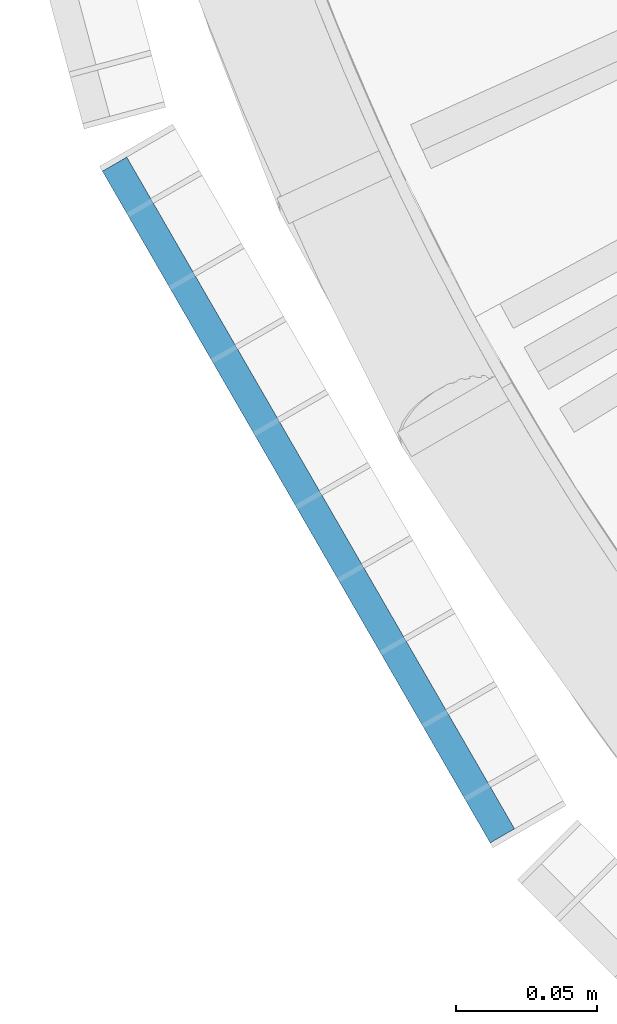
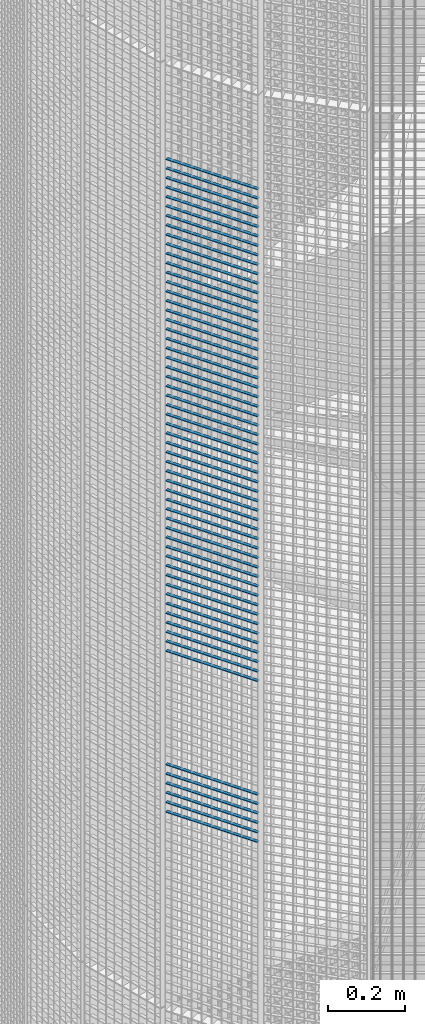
# One storey, part 116 of 1183: 59 beams, 1 element without a shape of its own.
"""IFC2X3 building model written with IfcOpenShell, lengths in millimetres."""

from ifc_helpers import new_model, si_unit, frame, origin_with_axes, origin_2d_with_axis, place, context, subcontext, project, spatial, rectangle, extrude, material, type_object, element, aggregate, save


model = new_model("IFC2X3")

# Units and contexts
model_context = context("Model", 3, precision=1e-05, world=origin_with_axes())
body_context = subcontext(model_context, "Body", "Model", "MODEL_VIEW")
ifc_project = project(units=[si_unit("LENGTHUNIT", "METRE", prefix="MILLI"), si_unit("AREAUNIT", "SQUARE_METRE"), si_unit("VOLUMEUNIT", "CUBIC_METRE"), si_unit("MASSUNIT", "GRAM", prefix="KILO"), si_unit("TIMEUNIT", "SECOND"), si_unit("PLANEANGLEUNIT", "RADIAN"), si_unit("SOLIDANGLEUNIT", "STERADIAN"), si_unit("THERMODYNAMICTEMPERATUREUNIT", "DEGREE_CELSIUS"), si_unit("LUMINOUSINTENSITYUNIT", "LUMEN")], contexts=[model_context])

# Site, building, storey
site_placement = place(None, origin_with_axes())
site = spatial("IfcSite", under=ifc_project, at=site_placement, Name="Undefined", CompositionType="ELEMENT")
building_placement = place(site_placement, origin_with_axes())
building = spatial("IfcBuilding", under=site, at=building_placement, Name="Undefined", CompositionType="ELEMENT")
storey_placement = place(building_placement, origin_with_axes())
storey = spatial("IfcBuildingStorey", under=building, at=storey_placement, Name="Undefined", CompositionType="ELEMENT", Elevation=0.0)

# Assembly, beams
assembly_placement = place(storey_placement, origin_with_axes())
assembly = element("IfcElementAssembly", 1, at=assembly_placement, inside=storey, Name="BORDURE", AssemblyPlace="NOTDEFINED", PredefinedType="NOTDEFINED")
ifc_material = material(Name="STEEL/S235JR")
beam_type = type_object("IfcBeamType", Name="PL2*10", PredefinedType="NOTDEFINED")
beam_1_placement = place(assembly_placement, frame((-1033.29996828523, -437.231955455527, 11700.0), z_axis=(-0.866025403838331, -0.499999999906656, 0.0), x_axis=(0.499999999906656, -0.866025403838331, 0.0)))
beam_1 = element("IfcBeam", 2, at=beam_1_placement, type_object=beam_type, material=ifc_material, Name="ENTRETOISE", context=body_context, shape_type="SweptSolid", body=[
    extrude(rectangle(XDim=2.0, YDim=10.0, at=origin_2d_with_axis()), frame((275.999999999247, 9.09494701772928e-13, 1.53210777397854e-14), z_axis=(-1.0, 0.0, 0.0), x_axis=(0.0, -1.0, 0.0)), (0.0, 0.0, 1.0), 276.0),
])
beam_2_placement = place(assembly_placement, frame((-1033.29996828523, -437.231955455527, 11670.0), z_axis=(-0.866025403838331, -0.499999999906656, 0.0), x_axis=(0.499999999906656, -0.866025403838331, 0.0)))
beam_2 = element("IfcBeam", 3, at=beam_2_placement, type_object=beam_type, material=ifc_material, Name="ENTRETOISE", context=body_context, shape_type="SweptSolid", body=[
    extrude(rectangle(XDim=2.0, YDim=10.0, at=origin_2d_with_axis()), frame((275.999999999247, 9.09494701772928e-13, 1.53210777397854e-14), z_axis=(-1.0, 0.0, 0.0), x_axis=(0.0, -1.0, 0.0)), (0.0, 0.0, 1.0), 276.0),
])
beam_3_placement = place(assembly_placement, frame((-1033.29996828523, -437.231955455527, 11640.0), z_axis=(-0.866025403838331, -0.499999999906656, 0.0), x_axis=(0.499999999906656, -0.866025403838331, 0.0)))
beam_3 = element("IfcBeam", 4, at=beam_3_placement, type_object=beam_type, material=ifc_material, Name="ENTRETOISE", context=body_context, shape_type="SweptSolid", body=[
    extrude(rectangle(XDim=2.0, YDim=10.0, at=origin_2d_with_axis()), frame((275.999999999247, 9.09494701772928e-13, 1.53210777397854e-14), z_axis=(-1.0, 0.0, 0.0), x_axis=(0.0, -1.0, 0.0)), (0.0, 0.0, 1.0), 276.0),
])
beam_4_placement = place(assembly_placement, frame((-1033.29996828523, -437.231955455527, 11610.0), z_axis=(-0.866025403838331, -0.499999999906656, 0.0), x_axis=(0.499999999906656, -0.866025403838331, 0.0)))
beam_4 = element("IfcBeam", 5, at=beam_4_placement, type_object=beam_type, material=ifc_material, Name="ENTRETOISE", context=body_context, shape_type="SweptSolid", body=[
    extrude(rectangle(XDim=2.0, YDim=10.0, at=origin_2d_with_axis()), frame((275.999999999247, 9.09494701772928e-13, 1.53210777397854e-14), z_axis=(-1.0, 0.0, 0.0), x_axis=(0.0, -1.0, 0.0)), (0.0, 0.0, 1.0), 276.0),
])
beam_5_placement = place(assembly_placement, frame((-1033.29996828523, -437.231955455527, 11580.0), z_axis=(-0.866025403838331, -0.499999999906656, 0.0), x_axis=(0.499999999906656, -0.866025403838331, 0.0)))
beam_5 = element("IfcBeam", 6, at=beam_5_placement, type_object=beam_type, material=ifc_material, Name="ENTRETOISE", context=body_context, shape_type="SweptSolid", body=[
    extrude(rectangle(XDim=2.0, YDim=10.0, at=origin_2d_with_axis()), frame((275.999999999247, 9.09494701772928e-13, 1.53210777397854e-14), z_axis=(-1.0, 0.0, 0.0), x_axis=(0.0, -1.0, 0.0)), (0.0, 0.0, 1.0), 276.0),
])
beam_6_placement = place(assembly_placement, frame((-1033.29996828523, -437.231955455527, 11550.0), z_axis=(-0.866025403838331, -0.499999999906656, 0.0), x_axis=(0.499999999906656, -0.866025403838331, 0.0)))
beam_6 = element("IfcBeam", 7, at=beam_6_placement, type_object=beam_type, material=ifc_material, Name="ENTRETOISE", context=body_context, shape_type="SweptSolid", body=[
    extrude(rectangle(XDim=2.0, YDim=10.0, at=origin_2d_with_axis()), frame((275.999999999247, 9.09494701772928e-13, 1.53210777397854e-14), z_axis=(-1.0, 0.0, 0.0), x_axis=(0.0, -1.0, 0.0)), (0.0, 0.0, 1.0), 276.0),
])
beam_7_placement = place(assembly_placement, frame((-1033.29996828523, -437.231955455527, 11520.0), z_axis=(-0.866025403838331, -0.499999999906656, 0.0), x_axis=(0.499999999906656, -0.866025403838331, 0.0)))
beam_7 = element("IfcBeam", 8, at=beam_7_placement, type_object=beam_type, material=ifc_material, Name="ENTRETOISE", context=body_context, shape_type="SweptSolid", body=[
    extrude(rectangle(XDim=2.0, YDim=10.0, at=origin_2d_with_axis()), frame((275.999999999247, 9.09494701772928e-13, 1.53210777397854e-14), z_axis=(-1.0, 0.0, 0.0), x_axis=(0.0, -1.0, 0.0)), (0.0, 0.0, 1.0), 276.0),
])
beam_8_placement = place(assembly_placement, frame((-1033.29996828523, -437.231955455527, 11490.0), z_axis=(-0.866025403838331, -0.499999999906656, 0.0), x_axis=(0.499999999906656, -0.866025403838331, 0.0)))
beam_8 = element("IfcBeam", 9, at=beam_8_placement, type_object=beam_type, material=ifc_material, Name="ENTRETOISE", context=body_context, shape_type="SweptSolid", body=[
    extrude(rectangle(XDim=2.0, YDim=10.0, at=origin_2d_with_axis()), frame((275.999999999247, 9.09494701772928e-13, 1.53210777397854e-14), z_axis=(-1.0, 0.0, 0.0), x_axis=(0.0, -1.0, 0.0)), (0.0, 0.0, 1.0), 276.0),
])
beam_9_placement = place(assembly_placement, frame((-1033.29996828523, -437.231955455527, 11460.0), z_axis=(-0.866025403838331, -0.499999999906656, 0.0), x_axis=(0.499999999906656, -0.866025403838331, 0.0)))
beam_9 = element("IfcBeam", 10, at=beam_9_placement, type_object=beam_type, material=ifc_material, Name="ENTRETOISE", context=body_context, shape_type="SweptSolid", body=[
    extrude(rectangle(XDim=2.0, YDim=10.0, at=origin_2d_with_axis()), frame((275.999999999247, 9.09494701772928e-13, 1.53210777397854e-14), z_axis=(-1.0, 0.0, 0.0), x_axis=(0.0, -1.0, 0.0)), (0.0, 0.0, 1.0), 276.0),
])
beam_10_placement = place(assembly_placement, frame((-1033.29996828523, -437.231955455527, 11430.0), z_axis=(-0.866025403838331, -0.499999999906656, 0.0), x_axis=(0.499999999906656, -0.866025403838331, 0.0)))
beam_10 = element("IfcBeam", 11, at=beam_10_placement, type_object=beam_type, material=ifc_material, Name="ENTRETOISE", context=body_context, shape_type="SweptSolid", body=[
    extrude(rectangle(XDim=2.0, YDim=10.0, at=origin_2d_with_axis()), frame((275.999999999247, 9.09494701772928e-13, 1.53210777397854e-14), z_axis=(-1.0, 0.0, 0.0), x_axis=(0.0, -1.0, 0.0)), (0.0, 0.0, 1.0), 276.0),
])
beam_11_placement = place(assembly_placement, frame((-1033.29996828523, -437.231955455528, 11400.0), z_axis=(-0.866025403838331, -0.499999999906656, 0.0), x_axis=(0.499999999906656, -0.866025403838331, 0.0)))
beam_11 = element("IfcBeam", 12, at=beam_11_placement, type_object=beam_type, material=ifc_material, Name="ENTRETOISE", context=body_context, shape_type="SweptSolid", body=[
    extrude(rectangle(XDim=2.0, YDim=10.0, at=origin_2d_with_axis()), frame((275.999999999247, 9.09494701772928e-13, 1.53210777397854e-14), z_axis=(-1.0, 0.0, 0.0), x_axis=(0.0, -1.0, 0.0)), (0.0, 0.0, 1.0), 276.0),
])
beam_12_placement = place(assembly_placement, frame((-1033.29996828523, -437.231955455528, 11370.0), z_axis=(-0.866025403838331, -0.499999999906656, 0.0), x_axis=(0.499999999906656, -0.866025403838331, 0.0)))
beam_12 = element("IfcBeam", 13, at=beam_12_placement, type_object=beam_type, material=ifc_material, Name="ENTRETOISE", context=body_context, shape_type="SweptSolid", body=[
    extrude(rectangle(XDim=2.0, YDim=10.0, at=origin_2d_with_axis()), frame((275.999999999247, 9.09494701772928e-13, 1.53210777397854e-14), z_axis=(-1.0, 0.0, 0.0), x_axis=(0.0, -1.0, 0.0)), (0.0, 0.0, 1.0), 276.0),
])
beam_13_placement = place(assembly_placement, frame((-1033.29996828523, -437.231955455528, 11340.0), z_axis=(-0.866025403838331, -0.499999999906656, 0.0), x_axis=(0.499999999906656, -0.866025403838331, 0.0)))
beam_13 = element("IfcBeam", 14, at=beam_13_placement, type_object=beam_type, material=ifc_material, Name="ENTRETOISE", context=body_context, shape_type="SweptSolid", body=[
    extrude(rectangle(XDim=2.0, YDim=10.0, at=origin_2d_with_axis()), frame((275.999999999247, 9.09494701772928e-13, 1.53210777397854e-14), z_axis=(-1.0, 0.0, 0.0), x_axis=(0.0, -1.0, 0.0)), (0.0, 0.0, 1.0), 276.0),
])
beam_14_placement = place(assembly_placement, frame((-1033.29996828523, -437.231955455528, 11310.0), z_axis=(-0.866025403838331, -0.499999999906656, 0.0), x_axis=(0.499999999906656, -0.866025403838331, 0.0)))
beam_14 = element("IfcBeam", 15, at=beam_14_placement, type_object=beam_type, material=ifc_material, Name="ENTRETOISE", context=body_context, shape_type="SweptSolid", body=[
    extrude(rectangle(XDim=2.0, YDim=10.0, at=origin_2d_with_axis()), frame((275.999999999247, 9.09494701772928e-13, 1.53210777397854e-14), z_axis=(-1.0, 0.0, 0.0), x_axis=(0.0, -1.0, 0.0)), (0.0, 0.0, 1.0), 276.0),
])
beam_15_placement = place(assembly_placement, frame((-1033.29996828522, -437.231955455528, 11280.0), z_axis=(-0.866025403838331, -0.499999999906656, 0.0), x_axis=(0.499999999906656, -0.866025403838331, 0.0)))
beam_15 = element("IfcBeam", 16, at=beam_15_placement, type_object=beam_type, material=ifc_material, Name="ENTRETOISE", context=body_context, shape_type="SweptSolid", body=[
    extrude(rectangle(XDim=2.0, YDim=10.0, at=origin_2d_with_axis()), frame((275.999999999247, 9.09494701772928e-13, 1.53210777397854e-14), z_axis=(-1.0, 0.0, 0.0), x_axis=(0.0, -1.0, 0.0)), (0.0, 0.0, 1.0), 276.0),
])
beam_16_placement = place(assembly_placement, frame((-1033.29996828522, -437.231955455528, 11250.0), z_axis=(-0.866025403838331, -0.499999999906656, 0.0), x_axis=(0.499999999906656, -0.866025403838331, 0.0)))
beam_16 = element("IfcBeam", 17, at=beam_16_placement, type_object=beam_type, material=ifc_material, Name="ENTRETOISE", context=body_context, shape_type="SweptSolid", body=[
    extrude(rectangle(XDim=2.0, YDim=10.0, at=origin_2d_with_axis()), frame((275.999999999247, 9.09494701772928e-13, 1.53210777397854e-14), z_axis=(-1.0, 0.0, 0.0), x_axis=(0.0, -1.0, 0.0)), (0.0, 0.0, 1.0), 276.0),
])
beam_17_placement = place(assembly_placement, frame((-1033.29996828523, -437.231955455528, 11220.0), z_axis=(-0.866025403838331, -0.499999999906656, 0.0), x_axis=(0.499999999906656, -0.866025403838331, 0.0)))
beam_17 = element("IfcBeam", 18, at=beam_17_placement, type_object=beam_type, material=ifc_material, Name="ENTRETOISE", context=body_context, shape_type="SweptSolid", body=[
    extrude(rectangle(XDim=2.0, YDim=10.0, at=origin_2d_with_axis()), frame((275.999999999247, 9.09494701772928e-13, 1.53210777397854e-14), z_axis=(-1.0, 0.0, 0.0), x_axis=(0.0, -1.0, 0.0)), (0.0, 0.0, 1.0), 276.0),
])
beam_18_placement = place(assembly_placement, frame((-1033.29996828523, -437.231955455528, 11190.0), z_axis=(-0.866025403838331, -0.499999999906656, 0.0), x_axis=(0.499999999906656, -0.866025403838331, 0.0)))
beam_18 = element("IfcBeam", 19, at=beam_18_placement, type_object=beam_type, material=ifc_material, Name="ENTRETOISE", context=body_context, shape_type="SweptSolid", body=[
    extrude(rectangle(XDim=2.0, YDim=10.0, at=origin_2d_with_axis()), frame((275.999999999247, 9.09494701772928e-13, 1.53210777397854e-14), z_axis=(-1.0, 0.0, 0.0), x_axis=(0.0, -1.0, 0.0)), (0.0, 0.0, 1.0), 276.0),
])
beam_19_placement = place(assembly_placement, frame((-1033.29996828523, -437.231955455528, 11160.0), z_axis=(-0.866025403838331, -0.499999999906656, 0.0), x_axis=(0.499999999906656, -0.866025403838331, 0.0)))
beam_19 = element("IfcBeam", 20, at=beam_19_placement, type_object=beam_type, material=ifc_material, Name="ENTRETOISE", context=body_context, shape_type="SweptSolid", body=[
    extrude(rectangle(XDim=2.0, YDim=10.0, at=origin_2d_with_axis()), frame((275.999999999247, 9.09494701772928e-13, 1.53210777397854e-14), z_axis=(-1.0, 0.0, 0.0), x_axis=(0.0, -1.0, 0.0)), (0.0, 0.0, 1.0), 276.0),
])
beam_20_placement = place(assembly_placement, frame((-1033.29996828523, -437.231955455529, 11130.0), z_axis=(-0.866025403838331, -0.499999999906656, 0.0), x_axis=(0.499999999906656, -0.866025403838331, 0.0)))
beam_20 = element("IfcBeam", 21, at=beam_20_placement, type_object=beam_type, material=ifc_material, Name="ENTRETOISE", context=body_context, shape_type="SweptSolid", body=[
    extrude(rectangle(XDim=2.0, YDim=10.0, at=origin_2d_with_axis()), frame((275.999999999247, 9.09494701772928e-13, 1.53210777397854e-14), z_axis=(-1.0, 0.0, 0.0), x_axis=(0.0, -1.0, 0.0)), (0.0, 0.0, 1.0), 276.0),
])
beam_21_placement = place(assembly_placement, frame((-1033.29996828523, -437.231955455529, 11100.0), z_axis=(-0.866025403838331, -0.499999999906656, 0.0), x_axis=(0.499999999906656, -0.866025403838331, 0.0)))
beam_21 = element("IfcBeam", 22, at=beam_21_placement, type_object=beam_type, material=ifc_material, Name="ENTRETOISE", context=body_context, shape_type="SweptSolid", body=[
    extrude(rectangle(XDim=2.0, YDim=10.0, at=origin_2d_with_axis()), frame((275.999999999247, 9.09494701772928e-13, 1.53210777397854e-14), z_axis=(-1.0, 0.0, 0.0), x_axis=(0.0, -1.0, 0.0)), (0.0, 0.0, 1.0), 276.0),
])
beam_22_placement = place(assembly_placement, frame((-1033.29996828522, -437.231955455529, 11070.0), z_axis=(-0.866025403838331, -0.499999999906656, 0.0), x_axis=(0.499999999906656, -0.866025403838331, 0.0)))
beam_22 = element("IfcBeam", 23, at=beam_22_placement, type_object=beam_type, material=ifc_material, Name="ENTRETOISE", context=body_context, shape_type="SweptSolid", body=[
    extrude(rectangle(XDim=2.0, YDim=10.0, at=origin_2d_with_axis()), frame((275.999999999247, 9.09494701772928e-13, 1.53210777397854e-14), z_axis=(-1.0, 0.0, 0.0), x_axis=(0.0, -1.0, 0.0)), (0.0, 0.0, 1.0), 276.0),
])
beam_23_placement = place(assembly_placement, frame((-1033.29996828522, -437.231955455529, 11040.0), z_axis=(-0.866025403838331, -0.499999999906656, 0.0), x_axis=(0.499999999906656, -0.866025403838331, 0.0)))
beam_23 = element("IfcBeam", 24, at=beam_23_placement, type_object=beam_type, material=ifc_material, Name="ENTRETOISE", context=body_context, shape_type="SweptSolid", body=[
    extrude(rectangle(XDim=2.0, YDim=10.0, at=origin_2d_with_axis()), frame((275.999999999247, 9.09494701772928e-13, 1.53210777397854e-14), z_axis=(-1.0, 0.0, 0.0), x_axis=(0.0, -1.0, 0.0)), (0.0, 0.0, 1.0), 276.0),
])
beam_24_placement = place(assembly_placement, frame((-1033.29996828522, -437.231955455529, 11010.0), z_axis=(-0.866025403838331, -0.499999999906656, 0.0), x_axis=(0.499999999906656, -0.866025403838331, 0.0)))
beam_24 = element("IfcBeam", 25, at=beam_24_placement, type_object=beam_type, material=ifc_material, Name="ENTRETOISE", context=body_context, shape_type="SweptSolid", body=[
    extrude(rectangle(XDim=2.0, YDim=10.0, at=origin_2d_with_axis()), frame((275.999999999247, 9.09494701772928e-13, 1.53210777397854e-14), z_axis=(-1.0, 0.0, 0.0), x_axis=(0.0, -1.0, 0.0)), (0.0, 0.0, 1.0), 276.0),
])
beam_25_placement = place(assembly_placement, frame((-1033.29996828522, -437.231955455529, 10980.0), z_axis=(-0.866025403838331, -0.499999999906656, 0.0), x_axis=(0.499999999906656, -0.866025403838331, 0.0)))
beam_25 = element("IfcBeam", 26, at=beam_25_placement, type_object=beam_type, material=ifc_material, Name="ENTRETOISE", context=body_context, shape_type="SweptSolid", body=[
    extrude(rectangle(XDim=2.0, YDim=10.0, at=origin_2d_with_axis()), frame((275.999999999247, 9.09494701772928e-13, 1.53210777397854e-14), z_axis=(-1.0, 0.0, 0.0), x_axis=(0.0, -1.0, 0.0)), (0.0, 0.0, 1.0), 276.0),
])
beam_26_placement = place(assembly_placement, frame((-1033.29996828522, -437.231955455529, 10950.0), z_axis=(-0.866025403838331, -0.499999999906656, 0.0), x_axis=(0.499999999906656, -0.866025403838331, 0.0)))
beam_26 = element("IfcBeam", 27, at=beam_26_placement, type_object=beam_type, material=ifc_material, Name="ENTRETOISE", context=body_context, shape_type="SweptSolid", body=[
    extrude(rectangle(XDim=2.0, YDim=10.0, at=origin_2d_with_axis()), frame((275.999999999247, 9.09494701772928e-13, 1.53210777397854e-14), z_axis=(-1.0, 0.0, 0.0), x_axis=(0.0, -1.0, 0.0)), (0.0, 0.0, 1.0), 276.0),
])
beam_27_placement = place(assembly_placement, frame((-1033.29996828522, -437.231955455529, 10920.0), z_axis=(-0.866025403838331, -0.499999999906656, 0.0), x_axis=(0.499999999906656, -0.866025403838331, 0.0)))
beam_27 = element("IfcBeam", 28, at=beam_27_placement, type_object=beam_type, material=ifc_material, Name="ENTRETOISE", context=body_context, shape_type="SweptSolid", body=[
    extrude(rectangle(XDim=2.0, YDim=10.0, at=origin_2d_with_axis()), frame((275.999999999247, 9.09494701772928e-13, 1.53210777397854e-14), z_axis=(-1.0, 0.0, 0.0), x_axis=(0.0, -1.0, 0.0)), (0.0, 0.0, 1.0), 276.0),
])
beam_28_placement = place(assembly_placement, frame((-1033.29996828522, -437.231955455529, 10890.0), z_axis=(-0.866025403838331, -0.499999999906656, 0.0), x_axis=(0.499999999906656, -0.866025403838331, 0.0)))
beam_28 = element("IfcBeam", 29, at=beam_28_placement, type_object=beam_type, material=ifc_material, Name="ENTRETOISE", context=body_context, shape_type="SweptSolid", body=[
    extrude(rectangle(XDim=2.0, YDim=10.0, at=origin_2d_with_axis()), frame((275.999999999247, 9.09494701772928e-13, 1.53210777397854e-14), z_axis=(-1.0, 0.0, 0.0), x_axis=(0.0, -1.0, 0.0)), (0.0, 0.0, 1.0), 276.0),
])
beam_29_placement = place(assembly_placement, frame((-1033.29996828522, -437.23195545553, 10860.0), z_axis=(-0.866025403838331, -0.499999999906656, 0.0), x_axis=(0.499999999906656, -0.866025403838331, 0.0)))
beam_29 = element("IfcBeam", 30, at=beam_29_placement, type_object=beam_type, material=ifc_material, Name="ENTRETOISE", context=body_context, shape_type="SweptSolid", body=[
    extrude(rectangle(XDim=2.0, YDim=10.0, at=origin_2d_with_axis()), frame((275.999999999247, 9.09494701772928e-13, 1.53210777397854e-14), z_axis=(-1.0, 0.0, 0.0), x_axis=(0.0, -1.0, 0.0)), (0.0, 0.0, 1.0), 276.0),
])
beam_30_placement = place(assembly_placement, frame((-1033.29996828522, -437.23195545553, 10830.0), z_axis=(-0.866025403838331, -0.499999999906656, 0.0), x_axis=(0.499999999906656, -0.866025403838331, 0.0)))
beam_30 = element("IfcBeam", 31, at=beam_30_placement, type_object=beam_type, material=ifc_material, Name="ENTRETOISE", context=body_context, shape_type="SweptSolid", body=[
    extrude(rectangle(XDim=2.0, YDim=10.0, at=origin_2d_with_axis()), frame((275.999999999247, 9.09494701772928e-13, 1.53210777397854e-14), z_axis=(-1.0, 0.0, 0.0), x_axis=(0.0, -1.0, 0.0)), (0.0, 0.0, 1.0), 276.0),
])
beam_31_placement = place(assembly_placement, frame((-1033.29996828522, -437.23195545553, 10800.0), z_axis=(-0.866025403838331, -0.499999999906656, 0.0), x_axis=(0.499999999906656, -0.866025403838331, 0.0)))
beam_31 = element("IfcBeam", 32, at=beam_31_placement, type_object=beam_type, material=ifc_material, Name="ENTRETOISE", context=body_context, shape_type="SweptSolid", body=[
    extrude(rectangle(XDim=2.0, YDim=10.0, at=origin_2d_with_axis()), frame((275.999999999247, 9.09494701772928e-13, 1.53210777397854e-14), z_axis=(-1.0, 0.0, 0.0), x_axis=(0.0, -1.0, 0.0)), (0.0, 0.0, 1.0), 276.0),
])
beam_32_placement = place(assembly_placement, frame((-1033.29996828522, -437.23195545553, 10770.0), z_axis=(-0.866025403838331, -0.499999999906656, 0.0), x_axis=(0.499999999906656, -0.866025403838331, 0.0)))
beam_32 = element("IfcBeam", 33, at=beam_32_placement, type_object=beam_type, material=ifc_material, Name="ENTRETOISE", context=body_context, shape_type="SweptSolid", body=[
    extrude(rectangle(XDim=2.0, YDim=10.0, at=origin_2d_with_axis()), frame((275.999999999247, 9.09494701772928e-13, 1.53210777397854e-14), z_axis=(-1.0, 0.0, 0.0), x_axis=(0.0, -1.0, 0.0)), (0.0, 0.0, 1.0), 276.0),
])
beam_33_placement = place(assembly_placement, frame((-1033.29996828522, -437.23195545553, 10740.0), z_axis=(-0.866025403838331, -0.499999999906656, 0.0), x_axis=(0.499999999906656, -0.866025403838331, 0.0)))
beam_33 = element("IfcBeam", 34, at=beam_33_placement, type_object=beam_type, material=ifc_material, Name="ENTRETOISE", context=body_context, shape_type="SweptSolid", body=[
    extrude(rectangle(XDim=2.0, YDim=10.0, at=origin_2d_with_axis()), frame((275.999999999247, 9.09494701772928e-13, 1.53210777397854e-14), z_axis=(-1.0, 0.0, 0.0), x_axis=(0.0, -1.0, 0.0)), (0.0, 0.0, 1.0), 276.0),
])
beam_34_placement = place(assembly_placement, frame((-1033.29996828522, -437.23195545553, 10710.0), z_axis=(-0.866025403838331, -0.499999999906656, 0.0), x_axis=(0.499999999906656, -0.866025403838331, 0.0)))
beam_34 = element("IfcBeam", 35, at=beam_34_placement, type_object=beam_type, material=ifc_material, Name="ENTRETOISE", context=body_context, shape_type="SweptSolid", body=[
    extrude(rectangle(XDim=2.0, YDim=10.0, at=origin_2d_with_axis()), frame((275.999999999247, 9.09494701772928e-13, 1.53210777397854e-14), z_axis=(-1.0, 0.0, 0.0), x_axis=(0.0, -1.0, 0.0)), (0.0, 0.0, 1.0), 276.0),
])
beam_35_placement = place(assembly_placement, frame((-1033.29996828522, -437.23195545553, 10680.0), z_axis=(-0.866025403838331, -0.499999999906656, 0.0), x_axis=(0.499999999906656, -0.866025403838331, 0.0)))
beam_35 = element("IfcBeam", 36, at=beam_35_placement, type_object=beam_type, material=ifc_material, Name="ENTRETOISE", context=body_context, shape_type="SweptSolid", body=[
    extrude(rectangle(XDim=2.0, YDim=10.0, at=origin_2d_with_axis()), frame((275.999999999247, 9.09494701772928e-13, 1.53210777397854e-14), z_axis=(-1.0, 0.0, 0.0), x_axis=(0.0, -1.0, 0.0)), (0.0, 0.0, 1.0), 276.0),
])
beam_36_placement = place(assembly_placement, frame((-1033.29996828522, -437.23195545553, 10650.0), z_axis=(-0.866025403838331, -0.499999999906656, 0.0), x_axis=(0.499999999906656, -0.866025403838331, 0.0)))
beam_36 = element("IfcBeam", 37, at=beam_36_placement, type_object=beam_type, material=ifc_material, Name="ENTRETOISE", context=body_context, shape_type="SweptSolid", body=[
    extrude(rectangle(XDim=2.0, YDim=10.0, at=origin_2d_with_axis()), frame((275.999999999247, 9.09494701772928e-13, 1.53210777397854e-14), z_axis=(-1.0, 0.0, 0.0), x_axis=(0.0, -1.0, 0.0)), (0.0, 0.0, 1.0), 276.0),
])
beam_37_placement = place(assembly_placement, frame((-1033.29996828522, -437.23195545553, 10620.0), z_axis=(-0.866025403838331, -0.499999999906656, 0.0), x_axis=(0.499999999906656, -0.866025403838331, 0.0)))
beam_37 = element("IfcBeam", 38, at=beam_37_placement, type_object=beam_type, material=ifc_material, Name="ENTRETOISE", context=body_context, shape_type="SweptSolid", body=[
    extrude(rectangle(XDim=2.0, YDim=10.0, at=origin_2d_with_axis()), frame((275.999999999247, 9.09494701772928e-13, 1.53210777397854e-14), z_axis=(-1.0, 0.0, 0.0), x_axis=(0.0, -1.0, 0.0)), (0.0, 0.0, 1.0), 276.0),
])
beam_38_placement = place(assembly_placement, frame((-1033.29996828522, -437.23195545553, 10590.0), z_axis=(-0.866025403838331, -0.499999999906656, 0.0), x_axis=(0.499999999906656, -0.866025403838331, 0.0)))
beam_38 = element("IfcBeam", 39, at=beam_38_placement, type_object=beam_type, material=ifc_material, Name="ENTRETOISE", context=body_context, shape_type="SweptSolid", body=[
    extrude(rectangle(XDim=2.0, YDim=10.0, at=origin_2d_with_axis()), frame((275.999999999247, 9.09494701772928e-13, 1.53210777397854e-14), z_axis=(-1.0, 0.0, 0.0), x_axis=(0.0, -1.0, 0.0)), (0.0, 0.0, 1.0), 276.0),
])
beam_39_placement = place(assembly_placement, frame((-1033.29996828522, -437.23195545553, 10560.0), z_axis=(-0.866025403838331, -0.499999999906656, 0.0), x_axis=(0.499999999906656, -0.866025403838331, 0.0)))
beam_39 = element("IfcBeam", 40, at=beam_39_placement, type_object=beam_type, material=ifc_material, Name="ENTRETOISE", context=body_context, shape_type="SweptSolid", body=[
    extrude(rectangle(XDim=2.0, YDim=10.0, at=origin_2d_with_axis()), frame((275.999999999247, 9.09494701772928e-13, 1.53210777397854e-14), z_axis=(-1.0, 0.0, 0.0), x_axis=(0.0, -1.0, 0.0)), (0.0, 0.0, 1.0), 276.0),
])
beam_40_placement = place(assembly_placement, frame((-1033.29996828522, -437.23195545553, 10530.0), z_axis=(-0.866025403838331, -0.499999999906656, 0.0), x_axis=(0.499999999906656, -0.866025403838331, 0.0)))
beam_40 = element("IfcBeam", 41, at=beam_40_placement, type_object=beam_type, material=ifc_material, Name="ENTRETOISE", context=body_context, shape_type="SweptSolid", body=[
    extrude(rectangle(XDim=2.0, YDim=10.0, at=origin_2d_with_axis()), frame((275.999999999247, 9.09494701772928e-13, 1.53210777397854e-14), z_axis=(-1.0, 0.0, 0.0), x_axis=(0.0, -1.0, 0.0)), (0.0, 0.0, 1.0), 276.0),
])
beam_41_placement = place(assembly_placement, frame((-1033.29996828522, -437.231955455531, 10500.0), z_axis=(-0.866025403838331, -0.499999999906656, 0.0), x_axis=(0.499999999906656, -0.866025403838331, 0.0)))
beam_41 = element("IfcBeam", 42, at=beam_41_placement, type_object=beam_type, material=ifc_material, Name="ENTRETOISE", context=body_context, shape_type="SweptSolid", body=[
    extrude(rectangle(XDim=2.0, YDim=10.0, at=origin_2d_with_axis()), frame((275.999999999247, 9.09494701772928e-13, 1.53210777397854e-14), z_axis=(-1.0, 0.0, 0.0), x_axis=(0.0, -1.0, 0.0)), (0.0, 0.0, 1.0), 276.0),
])
beam_42_placement = place(assembly_placement, frame((-1033.29996828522, -437.231955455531, 10470.0), z_axis=(-0.866025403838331, -0.499999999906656, 0.0), x_axis=(0.499999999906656, -0.866025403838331, 0.0)))
beam_42 = element("IfcBeam", 43, at=beam_42_placement, type_object=beam_type, material=ifc_material, Name="ENTRETOISE", context=body_context, shape_type="SweptSolid", body=[
    extrude(rectangle(XDim=2.0, YDim=10.0, at=origin_2d_with_axis()), frame((275.999999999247, 9.09494701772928e-13, 1.53210777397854e-14), z_axis=(-1.0, 0.0, 0.0), x_axis=(0.0, -1.0, 0.0)), (0.0, 0.0, 1.0), 276.0),
])
beam_43_placement = place(assembly_placement, frame((-1033.29996828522, -437.231955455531, 10440.0), z_axis=(-0.866025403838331, -0.499999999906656, 0.0), x_axis=(0.499999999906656, -0.866025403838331, 0.0)))
beam_43 = element("IfcBeam", 44, at=beam_43_placement, type_object=beam_type, material=ifc_material, Name="ENTRETOISE", context=body_context, shape_type="SweptSolid", body=[
    extrude(rectangle(XDim=2.0, YDim=10.0, at=origin_2d_with_axis()), frame((275.999999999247, 9.09494701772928e-13, 1.53210777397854e-14), z_axis=(-1.0, 0.0, 0.0), x_axis=(0.0, -1.0, 0.0)), (0.0, 0.0, 1.0), 276.0),
])
beam_44_placement = place(assembly_placement, frame((-1033.29996828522, -437.231955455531, 10410.0), z_axis=(-0.866025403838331, -0.499999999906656, 0.0), x_axis=(0.499999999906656, -0.866025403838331, 0.0)))
beam_44 = element("IfcBeam", 45, at=beam_44_placement, type_object=beam_type, material=ifc_material, Name="ENTRETOISE", context=body_context, shape_type="SweptSolid", body=[
    extrude(rectangle(XDim=2.0, YDim=10.0, at=origin_2d_with_axis()), frame((275.999999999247, 9.09494701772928e-13, 1.53210777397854e-14), z_axis=(-1.0, 0.0, 0.0), x_axis=(0.0, -1.0, 0.0)), (0.0, 0.0, 1.0), 276.0),
])
beam_45_placement = place(assembly_placement, frame((-1033.29996828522, -437.231955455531, 10380.0), z_axis=(-0.866025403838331, -0.499999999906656, 0.0), x_axis=(0.499999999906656, -0.866025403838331, 0.0)))
beam_45 = element("IfcBeam", 46, at=beam_45_placement, type_object=beam_type, material=ifc_material, Name="ENTRETOISE", context=body_context, shape_type="SweptSolid", body=[
    extrude(rectangle(XDim=2.0, YDim=10.0, at=origin_2d_with_axis()), frame((275.999999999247, 9.09494701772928e-13, 1.53210777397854e-14), z_axis=(-1.0, 0.0, 0.0), x_axis=(0.0, -1.0, 0.0)), (0.0, 0.0, 1.0), 276.0),
])
beam_46_placement = place(assembly_placement, frame((-1033.29996828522, -437.231955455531, 10350.0), z_axis=(-0.866025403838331, -0.499999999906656, 0.0), x_axis=(0.499999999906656, -0.866025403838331, 0.0)))
beam_46 = element("IfcBeam", 47, at=beam_46_placement, type_object=beam_type, material=ifc_material, Name="ENTRETOISE", context=body_context, shape_type="SweptSolid", body=[
    extrude(rectangle(XDim=2.0, YDim=10.0, at=origin_2d_with_axis()), frame((275.999999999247, 9.09494701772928e-13, 1.53210777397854e-14), z_axis=(-1.0, 0.0, 0.0), x_axis=(0.0, -1.0, 0.0)), (0.0, 0.0, 1.0), 276.0),
])
beam_47_placement = place(assembly_placement, frame((-1033.29996828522, -437.231955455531, 10320.0), z_axis=(-0.866025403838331, -0.499999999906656, 0.0), x_axis=(0.499999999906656, -0.866025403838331, 0.0)))
beam_47 = element("IfcBeam", 48, at=beam_47_placement, type_object=beam_type, material=ifc_material, Name="ENTRETOISE", context=body_context, shape_type="SweptSolid", body=[
    extrude(rectangle(XDim=2.0, YDim=10.0, at=origin_2d_with_axis()), frame((275.999999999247, 9.09494701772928e-13, 1.53210777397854e-14), z_axis=(-1.0, 0.0, 0.0), x_axis=(0.0, -1.0, 0.0)), (0.0, 0.0, 1.0), 276.0),
])
beam_48_placement = place(assembly_placement, frame((-1033.29996828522, -437.231955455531, 10290.0), z_axis=(-0.866025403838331, -0.499999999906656, 0.0), x_axis=(0.499999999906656, -0.866025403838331, 0.0)))
beam_48 = element("IfcBeam", 49, at=beam_48_placement, type_object=beam_type, material=ifc_material, Name="ENTRETOISE", context=body_context, shape_type="SweptSolid", body=[
    extrude(rectangle(XDim=2.0, YDim=10.0, at=origin_2d_with_axis()), frame((275.999999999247, 9.09494701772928e-13, 1.53210777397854e-14), z_axis=(-1.0, 0.0, 0.0), x_axis=(0.0, -1.0, 0.0)), (0.0, 0.0, 1.0), 276.0),
])
beam_49_placement = place(assembly_placement, frame((-1033.29996828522, -437.231955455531, 10260.0), z_axis=(-0.866025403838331, -0.499999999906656, 0.0), x_axis=(0.499999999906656, -0.866025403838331, 0.0)))
beam_49 = element("IfcBeam", 50, at=beam_49_placement, type_object=beam_type, material=ifc_material, Name="ENTRETOISE", context=body_context, shape_type="SweptSolid", body=[
    extrude(rectangle(XDim=2.0, YDim=10.0, at=origin_2d_with_axis()), frame((275.999999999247, 9.09494701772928e-13, 1.53210777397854e-14), z_axis=(-1.0, 0.0, 0.0), x_axis=(0.0, -1.0, 0.0)), (0.0, 0.0, 1.0), 276.0),
])
beam_50_placement = place(assembly_placement, frame((-1033.29996828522, -437.231955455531, 10230.0), z_axis=(-0.866025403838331, -0.499999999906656, 0.0), x_axis=(0.499999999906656, -0.866025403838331, 0.0)))
beam_50 = element("IfcBeam", 51, at=beam_50_placement, type_object=beam_type, material=ifc_material, Name="ENTRETOISE", context=body_context, shape_type="SweptSolid", body=[
    extrude(rectangle(XDim=2.0, YDim=10.0, at=origin_2d_with_axis()), frame((275.999999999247, 9.09494701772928e-13, 1.53210777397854e-14), z_axis=(-1.0, 0.0, 0.0), x_axis=(0.0, -1.0, 0.0)), (0.0, 0.0, 1.0), 276.0),
])
beam_51_placement = place(assembly_placement, frame((-1033.29996828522, -437.231955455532, 10200.0), z_axis=(-0.866025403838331, -0.499999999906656, 0.0), x_axis=(0.499999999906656, -0.866025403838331, 0.0)))
beam_51 = element("IfcBeam", 52, at=beam_51_placement, type_object=beam_type, material=ifc_material, Name="ENTRETOISE", context=body_context, shape_type="SweptSolid", body=[
    extrude(rectangle(XDim=2.0, YDim=10.0, at=origin_2d_with_axis()), frame((275.999999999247, 9.09494701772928e-13, 1.53210777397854e-14), z_axis=(-1.0, 0.0, 0.0), x_axis=(0.0, -1.0, 0.0)), (0.0, 0.0, 1.0), 276.0),
])
beam_52_placement = place(assembly_placement, frame((-1033.29996828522, -437.231955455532, 10170.0), z_axis=(-0.866025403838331, -0.499999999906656, 0.0), x_axis=(0.499999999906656, -0.866025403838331, 0.0)))
beam_52 = element("IfcBeam", 53, at=beam_52_placement, type_object=beam_type, material=ifc_material, Name="ENTRETOISE", context=body_context, shape_type="SweptSolid", body=[
    extrude(rectangle(XDim=2.0, YDim=10.0, at=origin_2d_with_axis()), frame((275.999999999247, 9.09494701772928e-13, 1.53210777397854e-14), z_axis=(-1.0, 0.0, 0.0), x_axis=(0.0, -1.0, 0.0)), (0.0, 0.0, 1.0), 276.0),
])
beam_53_placement = place(assembly_placement, frame((-1033.29996828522, -437.231955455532, 10140.0), z_axis=(-0.866025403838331, -0.499999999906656, 0.0), x_axis=(0.499999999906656, -0.866025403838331, 0.0)))
beam_53 = element("IfcBeam", 54, at=beam_53_placement, type_object=beam_type, material=ifc_material, Name="ENTRETOISE", context=body_context, shape_type="SweptSolid", body=[
    extrude(rectangle(XDim=2.0, YDim=10.0, at=origin_2d_with_axis()), frame((275.999999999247, 9.09494701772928e-13, 1.53210777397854e-14), z_axis=(-1.0, 0.0, 0.0), x_axis=(0.0, -1.0, 0.0)), (0.0, 0.0, 1.0), 276.0),
])
beam_54_placement = place(assembly_placement, frame((-1033.29996828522, -437.231955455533, 9720.0), z_axis=(-0.866025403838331, -0.499999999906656, 0.0), x_axis=(0.499999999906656, -0.866025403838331, 0.0)))
beam_54 = element("IfcBeam", 55, at=beam_54_placement, type_object=beam_type, material=ifc_material, Name="ENTRETOISE", context=body_context, shape_type="SweptSolid", body=[
    extrude(rectangle(XDim=2.0, YDim=10.0, at=origin_2d_with_axis()), frame((275.999999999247, 9.09494701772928e-13, 1.53210777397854e-14), z_axis=(-1.0, 0.0, 0.0), x_axis=(0.0, -1.0, 0.0)), (0.0, 0.0, 1.0), 276.0),
])
beam_55_placement = place(assembly_placement, frame((-1033.29996828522, -437.231955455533, 9690.0), z_axis=(-0.866025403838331, -0.499999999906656, 0.0), x_axis=(0.499999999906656, -0.866025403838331, 0.0)))
beam_55 = element("IfcBeam", 56, at=beam_55_placement, type_object=beam_type, material=ifc_material, Name="ENTRETOISE", context=body_context, shape_type="SweptSolid", body=[
    extrude(rectangle(XDim=2.0, YDim=10.0, at=origin_2d_with_axis()), frame((275.999999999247, 9.09494701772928e-13, 1.53210777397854e-14), z_axis=(-1.0, 0.0, 0.0), x_axis=(0.0, -1.0, 0.0)), (0.0, 0.0, 1.0), 276.0),
])
beam_56_placement = place(assembly_placement, frame((-1033.29996828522, -437.231955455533, 9750.0), z_axis=(-0.866025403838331, -0.499999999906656, 0.0), x_axis=(0.499999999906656, -0.866025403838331, 0.0)))
beam_56 = element("IfcBeam", 57, at=beam_56_placement, type_object=beam_type, material=ifc_material, Name="ENTRETOISE", context=body_context, shape_type="SweptSolid", body=[
    extrude(rectangle(XDim=2.0, YDim=10.0, at=origin_2d_with_axis()), frame((275.999999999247, 9.09494701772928e-13, 1.53210777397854e-14), z_axis=(-1.0, 0.0, 0.0), x_axis=(0.0, -1.0, 0.0)), (0.0, 0.0, 1.0), 276.0),
])
beam_57_placement = place(assembly_placement, frame((-1033.29996828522, -437.231955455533, 9660.0), z_axis=(-0.866025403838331, -0.499999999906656, 0.0), x_axis=(0.499999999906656, -0.866025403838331, 0.0)))
beam_57 = element("IfcBeam", 58, at=beam_57_placement, type_object=beam_type, material=ifc_material, Name="ENTRETOISE", context=body_context, shape_type="SweptSolid", body=[
    extrude(rectangle(XDim=2.0, YDim=10.0, at=origin_2d_with_axis()), frame((275.999999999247, 9.09494701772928e-13, 1.53210777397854e-14), z_axis=(-1.0, 0.0, 0.0), x_axis=(0.0, -1.0, 0.0)), (0.0, 0.0, 1.0), 276.0),
])
beam_58_placement = place(assembly_placement, frame((-1033.29996828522, -437.231955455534, 9630.0), z_axis=(-0.866025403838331, -0.499999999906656, 0.0), x_axis=(0.499999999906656, -0.866025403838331, 0.0)))
beam_58 = element("IfcBeam", 59, at=beam_58_placement, type_object=beam_type, material=ifc_material, Name="ENTRETOISE", context=body_context, shape_type="SweptSolid", body=[
    extrude(rectangle(XDim=2.0, YDim=10.0, at=origin_2d_with_axis()), frame((275.999999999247, 9.09494701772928e-13, 1.53210777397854e-14), z_axis=(-1.0, 0.0, 0.0), x_axis=(0.0, -1.0, 0.0)), (0.0, 0.0, 1.0), 276.0),
])
beam_59_placement = place(assembly_placement, frame((-1033.29996828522, -437.231955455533, 9780.0), z_axis=(-0.866025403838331, -0.499999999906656, 0.0), x_axis=(0.499999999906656, -0.866025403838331, 0.0)))
beam_59 = element("IfcBeam", 60, at=beam_59_placement, type_object=beam_type, material=ifc_material, Name="ENTRETOISE", context=body_context, shape_type="SweptSolid", body=[
    extrude(rectangle(XDim=2.0, YDim=10.0, at=origin_2d_with_axis()), frame((275.999999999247, 9.09494701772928e-13, 1.53210777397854e-14), z_axis=(-1.0, 0.0, 0.0), x_axis=(0.0, -1.0, 0.0)), (0.0, 0.0, 1.0), 276.0),
])
aggregate(assembly, [beam_1, beam_2, beam_3, beam_4, beam_5, beam_6, beam_7, beam_8, beam_9, beam_10, beam_11, beam_12, beam_13, beam_14, beam_15, beam_16, beam_17, beam_18, beam_19, beam_20, beam_21, beam_22, beam_23, beam_24, beam_25, beam_26, beam_27, beam_28, beam_29, beam_30, beam_31, beam_32, beam_33, beam_34, beam_35, beam_36, beam_37, beam_38, beam_39, beam_40, beam_41, beam_42, beam_43, beam_44, beam_45, beam_46, beam_47, beam_48, beam_49, beam_50, beam_51, beam_52, beam_53, beam_54, beam_55, beam_56, beam_57, beam_58, beam_59])

save(model, "model.ifc")
